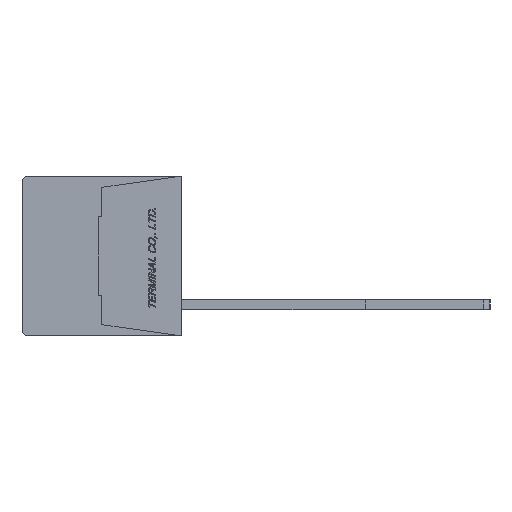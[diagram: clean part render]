
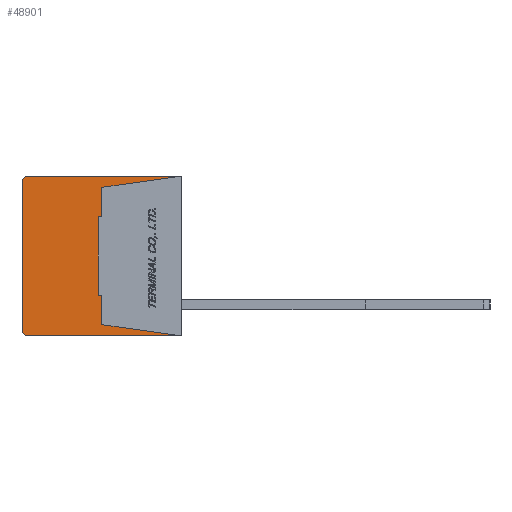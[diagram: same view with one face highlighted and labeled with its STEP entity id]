
A CAD part, left-side view. The second image highlights one B-rep face of the part: STEP entity #48901.
In plain terms, the highlighted planar face has unit normal (-1, 0, 0).
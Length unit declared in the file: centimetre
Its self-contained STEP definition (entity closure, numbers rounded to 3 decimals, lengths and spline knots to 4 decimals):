
#405=CIRCLE('',#83915,0.05);
#406=CIRCLE('',#83916,0.05);
#2984=VERTEX_POINT('',#64522);
#2985=VERTEX_POINT('',#64524);
#2986=VERTEX_POINT('',#64528);
#2987=VERTEX_POINT('',#64532);
#2988=VERTEX_POINT('',#64536);
#2989=VERTEX_POINT('',#64540);
#2990=VERTEX_POINT('',#64544);
#2991=VERTEX_POINT('',#64548);
#2992=VERTEX_POINT('',#64552);
#2993=VERTEX_POINT('',#64554);
#2994=VERTEX_POINT('',#64556);
#2995=VERTEX_POINT('',#64558);
#8109=VECTOR('',#54450,1.);
#8112=VECTOR('',#54454,1.);
#8114=VECTOR('',#54457,1.);
#8116=VECTOR('',#54460,1.);
#8118=VECTOR('',#54463,1.);
#8120=VECTOR('',#54466,1.);
#8122=VECTOR('',#54469,1.);
#8123=VECTOR('',#54471,1.);
#8124=VECTOR('',#54474,1.);
#8125=VECTOR('',#54477,1.);
#13944=LINE('',#64523,#8109);
#13947=LINE('',#64529,#8112);
#13949=LINE('',#64533,#8114);
#13951=LINE('',#64537,#8116);
#13953=LINE('',#64541,#8118);
#13955=LINE('',#64545,#8120);
#13957=LINE('',#64549,#8122);
#13958=LINE('',#64551,#8123);
#13959=LINE('',#64555,#8124);
#13960=LINE('',#64559,#8125);
#19887=EDGE_CURVE('',#2985,#2984,#13944,.T.);
#19890=EDGE_CURVE('',#2984,#2986,#13947,.T.);
#19892=EDGE_CURVE('',#2986,#2987,#13949,.T.);
#19894=EDGE_CURVE('',#2987,#2988,#13951,.T.);
#19896=EDGE_CURVE('',#2988,#2989,#13953,.T.);
#19898=EDGE_CURVE('',#2989,#2990,#13955,.T.);
#19900=EDGE_CURVE('',#2990,#2991,#13957,.T.);
#19901=EDGE_CURVE('',#2991,#2992,#13958,.T.);
#19902=EDGE_CURVE('',#2993,#2992,#405,.T.);
#19903=EDGE_CURVE('',#2993,#2994,#13959,.T.);
#19904=EDGE_CURVE('',#2995,#2994,#406,.T.);
#19905=EDGE_CURVE('',#2995,#2985,#13960,.T.);
#27998=ORIENTED_EDGE('',*,*,#19887,.T.);
#27999=ORIENTED_EDGE('',*,*,#19890,.T.);
#28000=ORIENTED_EDGE('',*,*,#19892,.T.);
#28001=ORIENTED_EDGE('',*,*,#19894,.T.);
#28002=ORIENTED_EDGE('',*,*,#19896,.T.);
#28003=ORIENTED_EDGE('',*,*,#19898,.T.);
#28004=ORIENTED_EDGE('',*,*,#19900,.T.);
#28005=ORIENTED_EDGE('',*,*,#19901,.T.);
#28006=ORIENTED_EDGE('',*,*,#19902,.F.);
#28007=ORIENTED_EDGE('',*,*,#19903,.T.);
#28008=ORIENTED_EDGE('',*,*,#19904,.F.);
#28009=ORIENTED_EDGE('',*,*,#19905,.T.);
#42317=EDGE_LOOP('',(#27998,#27999,#28000,#28001,#28002,#28003,#28004,#28005,
#28006,#28007,#28008,#28009));
#45622=FACE_BOUND('',#42317,.T.);
#48901=ADVANCED_FACE('',(#45622),#51829,.F.);
#51829=PLANE('',#83914);
#54450=DIRECTION('',(0.,0.99,0.139));
#54454=DIRECTION('',(0.,0.,1.));
#54457=DIRECTION('',(0.,1.,0.));
#54460=DIRECTION('',(0.,0.,1.));
#54463=DIRECTION('',(0.,-1.,0.));
#54466=DIRECTION('',(0.,0.,1.));
#54469=DIRECTION('',(0.,-0.99,0.139));
#54470=DIRECTION('',(1.,0.,0.));
#54471=DIRECTION('',(0.,1.,0.));
#54472=DIRECTION('',(1.,0.,0.));
#54473=DIRECTION('',(0.,0.,-0.05));
#54474=DIRECTION('',(0.,0.,-1.));
#54475=DIRECTION('',(1.,0.,0.));
#54476=DIRECTION('',(0.,0.,-0.05));
#54477=DIRECTION('',(0.,-1.,0.));
#64522=CARTESIAN_POINT('',(-1.,0.64,-0.55));
#64523=CARTESIAN_POINT('',(-1.,0.5152,-0.5675));
#64524=CARTESIAN_POINT('',(-1.,0.,-0.64));
#64528=CARTESIAN_POINT('',(-1.,0.64,-0.315));
#64529=CARTESIAN_POINT('',(-1.,0.64,-0.2163));
#64532=CARTESIAN_POINT('',(-1.,0.67,-0.315));
#64533=CARTESIAN_POINT('',(-1.,0.6447,-0.315));
#64536=CARTESIAN_POINT('',(-1.,0.67,0.315));
#64537=CARTESIAN_POINT('',(-1.,0.67,0.));
#64540=CARTESIAN_POINT('',(-1.,0.64,0.315));
#64541=CARTESIAN_POINT('',(-1.,0.6447,0.315));
#64544=CARTESIAN_POINT('',(-1.,0.64,0.55));
#64545=CARTESIAN_POINT('',(-1.,0.64,0.2163));
#64548=CARTESIAN_POINT('',(-1.,0.,0.64));
#64549=CARTESIAN_POINT('',(-1.,0.5152,0.5675));
#64550=CARTESIAN_POINT('',(-1.,0.6345,0.));
#64551=CARTESIAN_POINT('',(-1.,0.,0.64));
#64552=CARTESIAN_POINT('',(-1.,1.23,0.64));
#64553=CARTESIAN_POINT('',(-1.,1.23,0.59));
#64554=CARTESIAN_POINT('',(-1.,1.28,0.59));
#64555=CARTESIAN_POINT('',(-1.,1.28,0.59));
#64556=CARTESIAN_POINT('',(-1.,1.28,-0.59));
#64557=CARTESIAN_POINT('',(-1.,1.23,-0.59));
#64558=CARTESIAN_POINT('',(-1.,1.23,-0.64));
#64559=CARTESIAN_POINT('',(-1.,1.23,-0.64));
#83914=AXIS2_PLACEMENT_3D('',#64550,#54470,$);
#83915=AXIS2_PLACEMENT_3D('',#64553,#54472,#54473);
#83916=AXIS2_PLACEMENT_3D('',#64557,#54475,#54476);
